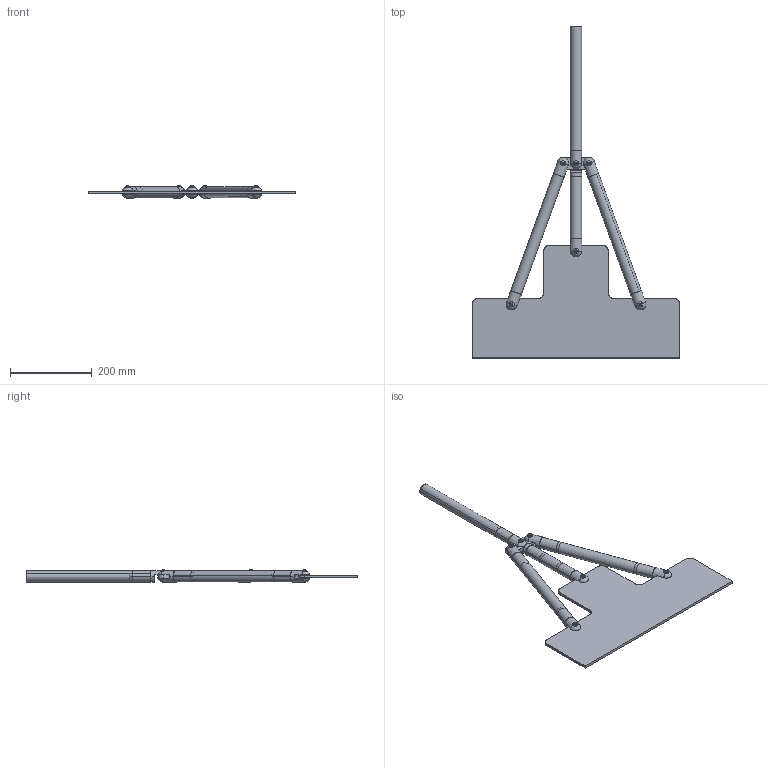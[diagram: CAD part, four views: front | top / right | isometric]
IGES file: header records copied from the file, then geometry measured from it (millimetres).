
Start section: SolidWorks IGES file using analytic representation for surfaces
Global section: file name: \\SERVER3\Design\_New Design Drive Folder List\_Design Vault\AAI\Modular Round Tube Connectors\Solidworks Models\Demonstrations\18. End of Arm Tool\Plate and Tube Structure.IGS; native system: SolidWorks 2013; preprocessor: SolidWorks 2013; author: tbraun; date: 131205.152927; units: inch
Bounding box: 508 x 811.14 x 30.82 mm (x, y, z)
Surface area: 479092.7 mm2 (no closed solid volume)
Topology: 0 solids, 0 shells, 1453 faces, 20168 edges, 20154 vertices
Faces by surface type: revolution 1222, bspline 231
